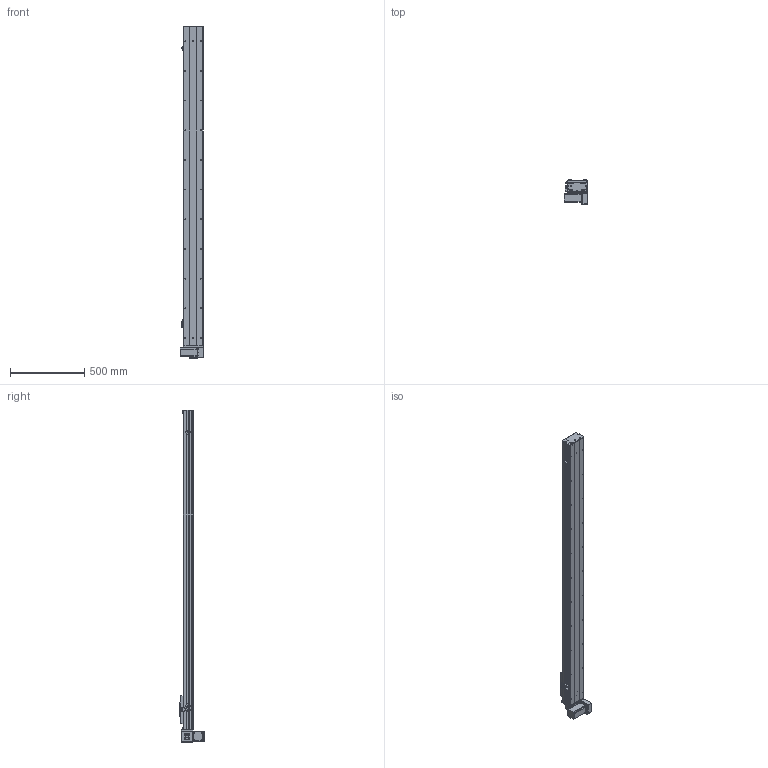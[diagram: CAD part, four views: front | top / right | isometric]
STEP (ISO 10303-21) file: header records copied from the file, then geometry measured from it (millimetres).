
FILE_DESCRIPTION (( 'STEP AP203' ), '1' );
FILE_NAME ('Y135CB-D90-S1850-BM-P400W.STEP', '2020-02-19T01:37:13', ( '微软用户' ), ( '微软中国' ), 'SwSTEP 2.0', 'SolidWorks 2017', '' );
FILE_SCHEMA (( 'CONFIG_CONTROL_DESIGN' ));
Length unit declared in the file: millimetre
Products named in the file (18): Y100-135俋离換覜ん--; 35CB---喘謫眊楊擘啣; Y10B-耜蚾蟀諉啣----; 0B-埴倛裔啣; Y135CB-D90-S1850-BM-P400W; 0B-源倛裔啣; 0B-萇儂楊擘啣; Y135C-陔俋离換覜結え-; san松下电机400不带刹车----; 5C--俋欶; 5CB --掛极耜裔啣-; C-雄赽釱--; C-詩湍揤踡え-陔; Y135CB-耜裔; Y10B--々湍喘謫眊--666; 135CB--詩湍-CE; 135CB---遴掛极.-; 00B-俋欶BM--
Assembly tree (21 placements, depth 2):
  Y135CB-D90-S1850-BM-P400W
    Y135CB-耜裔
    135CB---遴掛极.-
    35CB---喘謫眊楊擘啣
    0B-埴倛裔啣
    0B-源倛裔啣
    0B-萇儂楊擘啣
    san松下电机400不带刹车----
    5CB --掛极耜裔啣-  x2
    C-詩湍揤踡え-陔  x2
    135CB--詩湍-CE
    Y100-135俋离換覜ん--  x3
    Y135C-陔俋离換覜結え-
    5C--俋欶
    C-雄赽釱--
    Y10B--々湍喘謫眊--666
    00B-俋欶BM--
    Y10B-耜蚾蟀諉啣----
Bounding box: 157 x 163.3 x 2238 mm (x, y, z)
Volume: 6593884.2 mm3; surface area: 2602338 mm2
Topology: 21 solids, 21 shells, 961 faces, 2599 edges, 1722 vertices
Faces by surface type: cylinder 489, plane 456, cone 16
Entity records: 30157 total; most frequent: DIRECTION 5011, CARTESIAN_POINT 4988, ORIENTED_EDGE 4674, EDGE_CURVE 2337, AXIS2_PLACEMENT_3D 1833, VERTEX_POINT 1550, LINE 1345, VECTOR 1345
